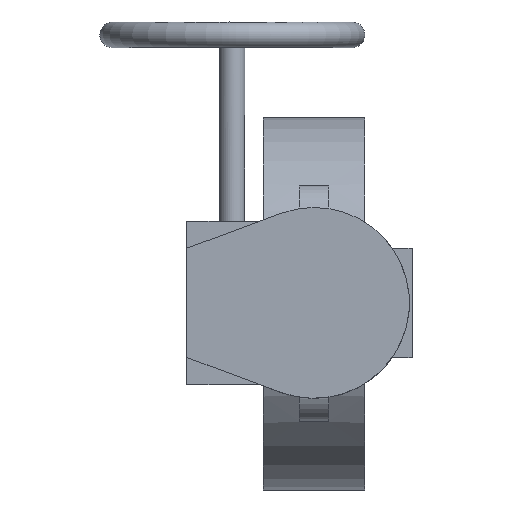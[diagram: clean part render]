
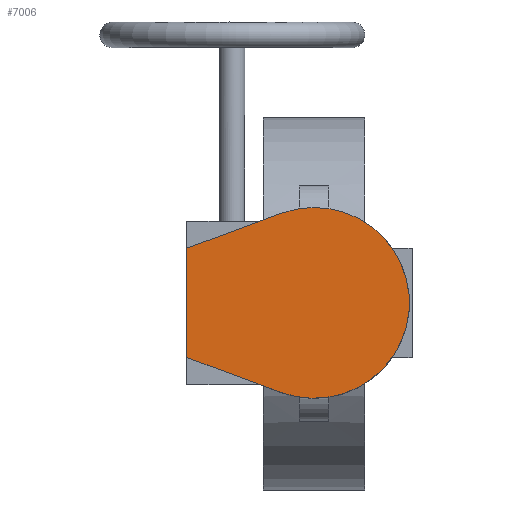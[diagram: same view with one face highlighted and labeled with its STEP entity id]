
A CAD part, top view. The second image highlights one B-rep face of the part: STEP entity #7006.
In plain terms, the highlighted planar face has unit normal (0, 0, 1).
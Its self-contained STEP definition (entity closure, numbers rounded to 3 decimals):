
#7006=ADVANCED_FACE('',(#12695),#12697,.T.);
#12695=FACE_BOUND('',#12696,.T.);
#12696=EDGE_LOOP('',(#17304,#17305,#17306,#17307));
#12697=PLANE('',#12698);
#12698=AXIS2_PLACEMENT_3D('',#12699,#12700,#12701);
#12699=CARTESIAN_POINT('',(0.,0.,275.));
#12700=DIRECTION('',(0.,0.,1.));
#12701=DIRECTION('',(0.,1.,0.));
#17304=ORIENTED_EDGE('',*,*,#19641,.T.);
#17305=ORIENTED_EDGE('',*,*,#19637,.T.);
#17306=ORIENTED_EDGE('',*,*,#19630,.T.);
#17307=ORIENTED_EDGE('',*,*,#19625,.T.);
#19625=EDGE_CURVE('',#23395,#23393,#23396,.T.);
#19630=EDGE_CURVE('',#23403,#23395,#23404,.T.);
#19637=EDGE_CURVE('',#23416,#23403,#23417,.T.);
#19641=EDGE_CURVE('',#23393,#23416,#23422,.T.);
#23393=VERTEX_POINT('',#33472);
#23395=VERTEX_POINT('',#33476);
#23396=LINE('',#33477,#33478);
#23403=VERTEX_POINT('',#33494);
#23404=LINE('',#33495,#33496);
#23416=VERTEX_POINT('',#33521);
#23417=LINE('',#33522,#33523);
#23422=CIRCLE('',#33535,52.5);
#33472=CARTESIAN_POINT('',(-18.284,-49.213,275.));
#33476=CARTESIAN_POINT('',(-70.,-30.,275.));
#33477=CARTESIAN_POINT('',(-70.,-30.,275.));
#33478=VECTOR('',#33479,1.);
#33479=DIRECTION('',(0.937,-0.348,0.));
#33494=CARTESIAN_POINT('',(-70.,30.,275.));
#33495=CARTESIAN_POINT('',(-70.,30.,275.));
#33496=VECTOR('',#33497,1.);
#33497=DIRECTION('',(0.,-1.,0.));
#33521=CARTESIAN_POINT('',(-18.284,49.213,275.));
#33522=CARTESIAN_POINT('',(-18.284,49.213,275.));
#33523=VECTOR('',#33524,1.);
#33524=DIRECTION('',(-0.937,-0.348,0.));
#33535=AXIS2_PLACEMENT_3D('',#33536,#33537,#33538);
#33536=CARTESIAN_POINT('',(0.,0.,275.));
#33537=DIRECTION('',(0.,0.,1.));
#33538=DIRECTION('',(-0.348,-0.937,0.));
